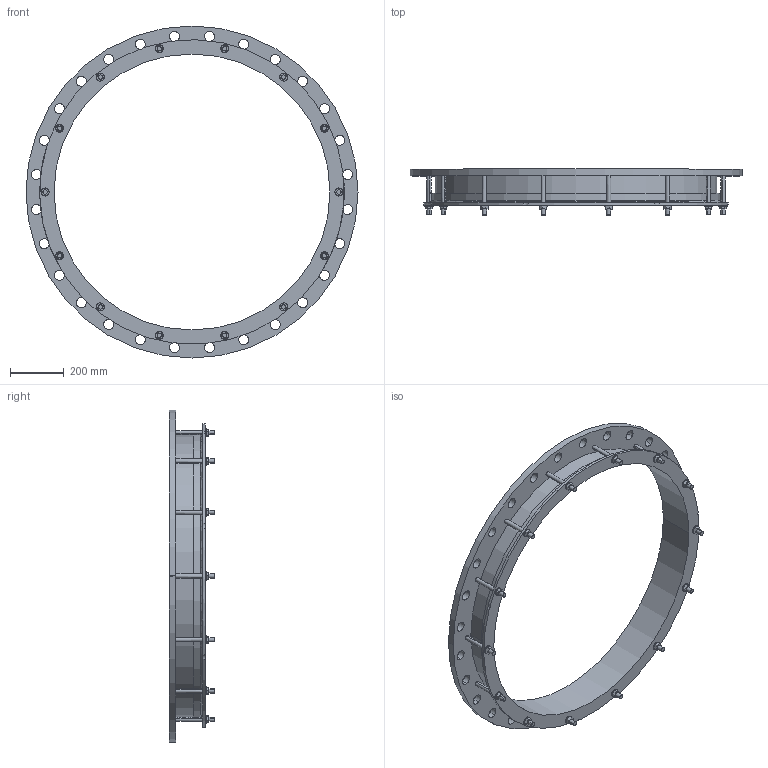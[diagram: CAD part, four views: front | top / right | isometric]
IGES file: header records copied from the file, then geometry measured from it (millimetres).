
Start section:  PTC IGES file: 1019x1000pn10_7not.igs
Global section: file name: 1019x1000pn10_7not.igs; native system: Creo Parametric by PTC Inc.; preprocessor: 2016130; author: mfairey; organization: Unknown; date: 20190117.105202; units: millimetre
Bounding box: 1230 x 169 x 1230 mm (x, y, z)
Surface area: 2007465.7 mm2 (no closed solid volume)
Topology: 0 solids, 0 shells, 296 faces, 1580 edges, 1580 vertices
Faces by surface type: revolution 166, bspline 130
